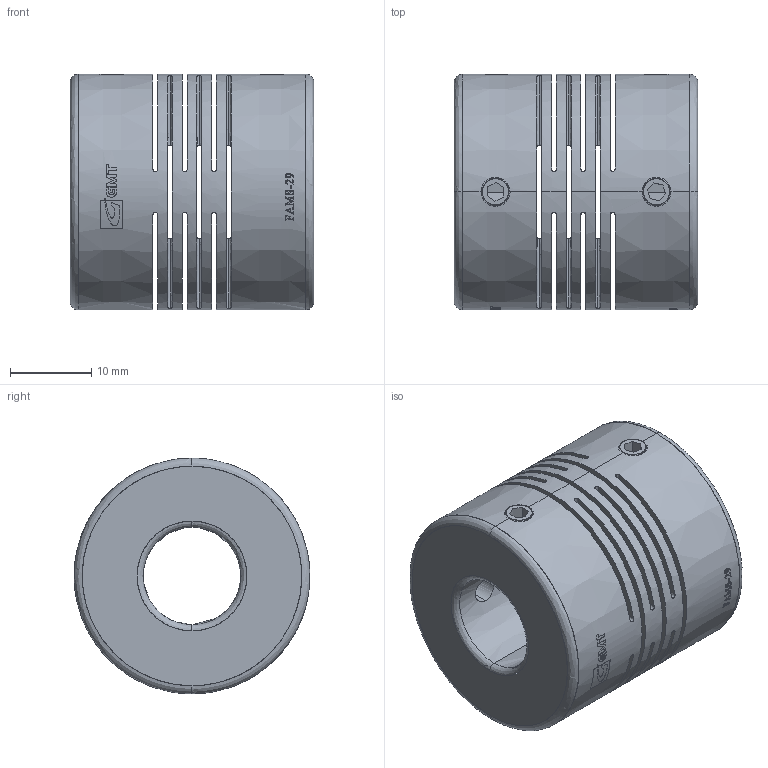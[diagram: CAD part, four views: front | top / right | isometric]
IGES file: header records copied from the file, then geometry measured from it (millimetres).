
Start section: SolidWorks IGES file using analytic representation for surfaces
Bounding box: 30 x 29 x 29 mm (x, y, z)
Surface area: 10128.7 mm2 (no closed solid volume)
Topology: 0 solids, 0 shells, 210 faces, 3469 edges, 3469 vertices
Faces by surface type: bspline 126, revolution 84
